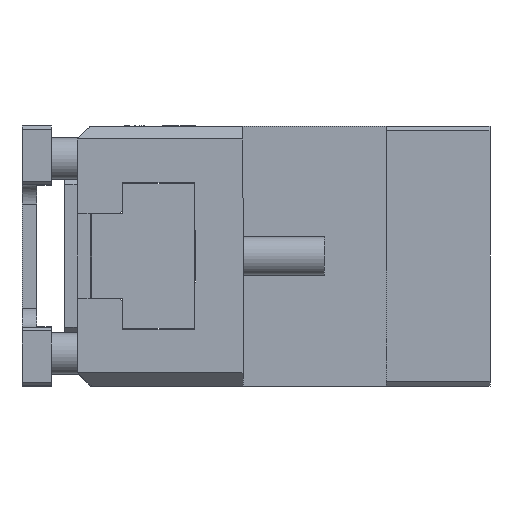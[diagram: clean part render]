
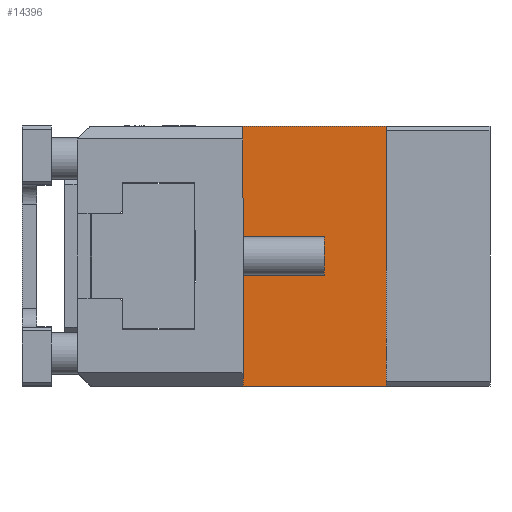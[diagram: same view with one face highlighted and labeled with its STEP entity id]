
A CAD part, left-side view. The second image highlights one B-rep face of the part: STEP entity #14396.
In plain terms, the highlighted planar face has unit normal (-1, 0, 0).
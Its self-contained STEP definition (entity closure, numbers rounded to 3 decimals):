
#617 = VECTOR ( 'NONE', #30868, 1000. ) ;
#758 = CARTESIAN_POINT ( 'NONE',  ( -70., 44., -40. ) ) ;
#1067 = EDGE_LOOP ( 'NONE', ( #28185, #29738, #15803, #39224 ) ) ;
#1326 = VECTOR ( 'NONE', #46030, 1000. ) ;
#2939 = CARTESIAN_POINT ( 'NONE',  ( -70., 0., 40. ) ) ;
#4427 = EDGE_CURVE ( 'NONE', #9001, #11013, #37418, .T. ) ;
#8189 = FACE_OUTER_BOUND ( 'NONE', #1067, .T. ) ;
#9001 = VERTEX_POINT ( 'NONE', #13362 ) ;
#11013 = VERTEX_POINT ( 'NONE', #49246 ) ;
#12820 = DIRECTION ( 'NONE',  ( 0., -1., 0. ) ) ;
#13362 = CARTESIAN_POINT ( 'NONE',  ( -70., 44., -40. ) ) ;
#14396 = ADVANCED_FACE ( 'NONE', ( #8189 ), #18788, .F. ) ;
#14916 = CARTESIAN_POINT ( 'NONE',  ( -70., 0., 40. ) ) ;
#15614 = LINE ( 'NONE', #17160, #47474 ) ;
#15803 = ORIENTED_EDGE ( 'NONE', *, *, #32138, .T. ) ;
#16835 = VERTEX_POINT ( 'NONE', #14916 ) ;
#17160 = CARTESIAN_POINT ( 'NONE',  ( -70., 44., 40. ) ) ;
#18096 = CARTESIAN_POINT ( 'NONE',  ( -70., 44., 40. ) ) ;
#18788 = PLANE ( 'NONE',  #40054 ) ;
#22802 = DIRECTION ( 'NONE',  ( 1., 0., 0. ) ) ;
#26801 = VECTOR ( 'NONE', #12820, 1000. ) ;
#28185 = ORIENTED_EDGE ( 'NONE', *, *, #37443, .T. ) ;
#29738 = ORIENTED_EDGE ( 'NONE', *, *, #39051, .F. ) ;
#30694 = LINE ( 'NONE', #2939, #617 ) ;
#30868 = DIRECTION ( 'NONE',  ( 0., 0., 1. ) ) ;
#31908 = LINE ( 'NONE', #18096, #1326 ) ;
#32138 = EDGE_CURVE ( 'NONE', #44037, #9001, #31908, .T. ) ;
#37418 = LINE ( 'NONE', #758, #26801 ) ;
#37443 = EDGE_CURVE ( 'NONE', #11013, #16835, #30694, .T. ) ;
#38714 = CARTESIAN_POINT ( 'NONE',  ( -70., 44., 40. ) ) ;
#39051 = EDGE_CURVE ( 'NONE', #44037, #16835, #15614, .T. ) ;
#39224 = ORIENTED_EDGE ( 'NONE', *, *, #4427, .T. ) ;
#40054 = AXIS2_PLACEMENT_3D ( 'NONE', #38714, #22802, #50718 ) ;
#41077 = DIRECTION ( 'NONE',  ( 0., -1., 0. ) ) ;
#43898 = CARTESIAN_POINT ( 'NONE',  ( -70., 44., 40. ) ) ;
#44037 = VERTEX_POINT ( 'NONE', #43898 ) ;
#46030 = DIRECTION ( 'NONE',  ( 0., 0., -1. ) ) ;
#47474 = VECTOR ( 'NONE', #41077, 1000. ) ;
#49246 = CARTESIAN_POINT ( 'NONE',  ( -70., 0., -40. ) ) ;
#50718 = DIRECTION ( 'NONE',  ( 0., 0., -1. ) ) ;
